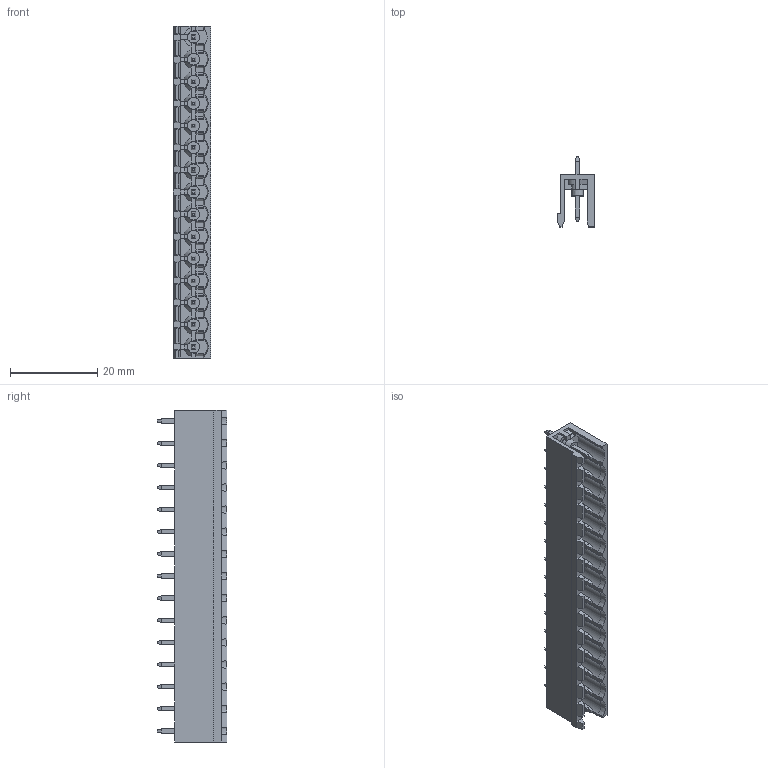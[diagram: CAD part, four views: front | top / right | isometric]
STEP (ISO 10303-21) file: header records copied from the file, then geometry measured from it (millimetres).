
FILE_DESCRIPTION (( 'STEP AP203' ), '1' );
FILE_NAME ('BR8MC1-15.STEP', '2020-03-18T03:03:49', ( '' ), ( '' ), 'SwSTEP 2.0', 'SolidWorks 2019', '' );
FILE_SCHEMA (( 'CONFIG_CONTROL_DESIGN' ));
Length unit declared in the file: millimetre
Products named in the file (1): BR8MC1-15
Bounding box: 8.5 x 16.03 x 76.2 mm (x, y, z)
Volume: 2886.4 mm3; surface area: 6398.4 mm2
Topology: 1 solids, 1 shells, 1264 faces, 3294 edges, 2032 vertices
Faces by surface type: plane 1086, cylinder 76, cone 72, sphere 30
Entity records: 37568 total; most frequent: CARTESIAN_POINT 7171, ORIENTED_EDGE 6468, DIRECTION 5921, EDGE_CURVE 3234, VECTOR 2761, LINE 2761, VERTEX_POINT 2002, AXIS2_PLACEMENT_3D 1580
